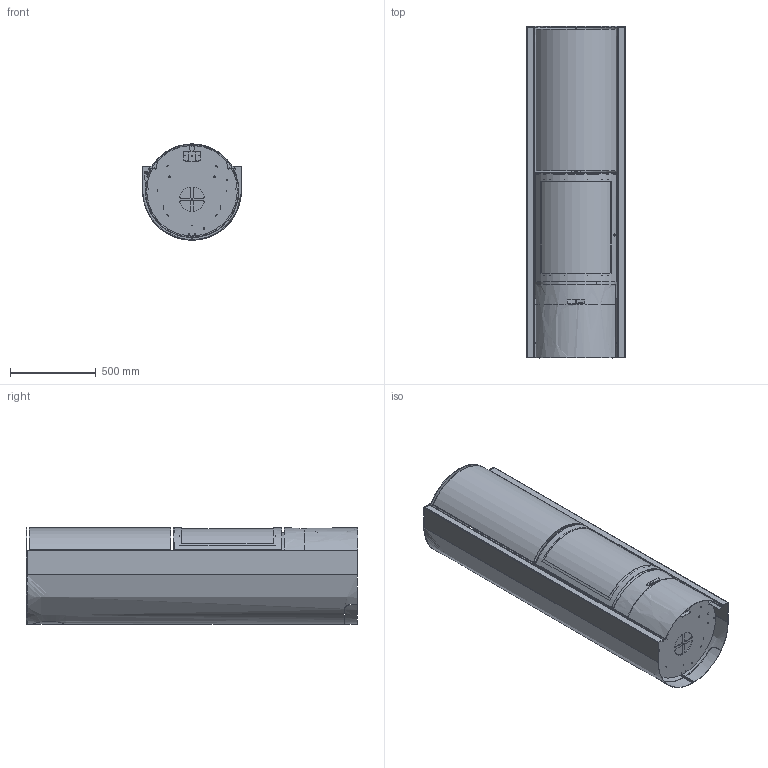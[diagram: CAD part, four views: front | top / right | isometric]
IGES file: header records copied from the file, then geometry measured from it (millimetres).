
Start section:  PTC IGES file: 10030012-igs.igs
Global section: file name: 10030012-igs.igs; native system: Creo Parametric by Parametric Technology Corporation; preprocessor: 2014090; author: dra; organization: Unknown; date: 20141120.100424; units: millimetre
Bounding box: 575 x 1930.3 x 560 mm (x, y, z)
Volume: 27360637.9 mm3; surface area: 13271062.7 mm2
Topology: 23 solids, 23 shells, 4155 faces, 10798 edges, 6610 vertices
Faces by surface type: bspline 2504, revolution 1651
